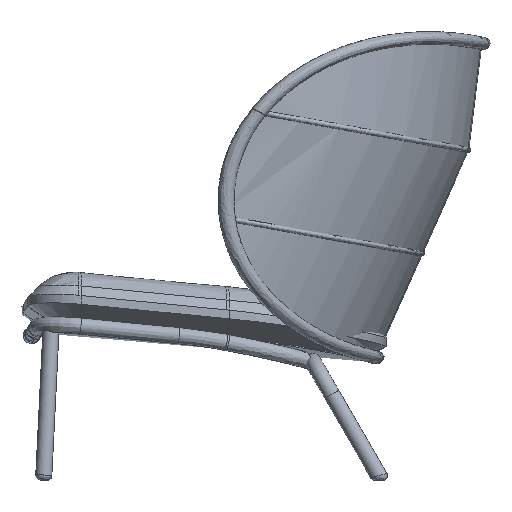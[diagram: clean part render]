
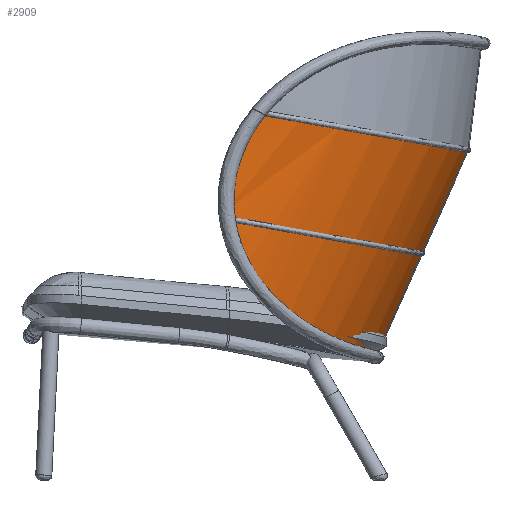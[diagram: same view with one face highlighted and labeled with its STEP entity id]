
A CAD part, left-side view. The second image highlights one B-rep face of the part: STEP entity #2909.
In plain terms, the highlighted free-form (B-spline) face has degree [1, 2] with [2, 3] control points.
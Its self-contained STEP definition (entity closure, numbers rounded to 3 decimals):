
#343=FACE_OUTER_BOUND('',#541,.T.);
#541=EDGE_LOOP('',(#1967,#1968,#1969));
#741=B_SPLINE_CURVE_WITH_KNOTS('',3,(#3964,#3965,#3966,#3967,#3968,#3969,
#3970,#3971,#3972,#3973,#3974,#3975,#3976,#3977,#3978,#3979,#3980,#3981,
#3982,#3983,#3984,#3985,#3986,#3987,#3988,#3989,#3990,#3991,#3992,#3993,
#3994,#3995,#3996,#3997,#3998,#3999,#4000,#4001,#4002,#4003,#4004,#4005,
#4006,#4007,#4008,#4009,#4010,#4011,#4012,#4013,#4014,#4015,#4016,#4017,
#4018,#4019,#4020,#4021,#4022,#4023,#4024,#4025,#4026,#4027,#4028,#4029,
#4030,#4031,#4032,#4033),.UNSPECIFIED.,.F.,.F.,(4,3,3,3,3,3,3,3,3,3,3,3,
3,3,3,3,3,3,3,3,3,3,3,4),(1.,4.531,9.063,
13.594,18.126,22.657,27.189,31.72,
36.252,40.317,44.383,48.448,52.513,
56.326,60.139,63.952,67.765,71.578,
75.391,79.204,83.017,86.83,90.643,
91.565),.UNSPECIFIED.);
#901=LINE('',#3963,#1015);
#1015=VECTOR('',#3364,0.301);
#1129=ELLIPSE('',#3122,500.,499.383);
#1210=VERTEX_POINT('',#3959);
#1211=VERTEX_POINT('',#3960);
#1212=VERTEX_POINT('',#3962);
#1498=EDGE_CURVE('',#1210,#1211,#1129,.T.);
#1499=EDGE_CURVE('',#1212,#1211,#901,.T.);
#1500=EDGE_CURVE('',#1212,#1210,#741,.T.);
#1967=ORIENTED_EDGE('',*,*,#1498,.T.);
#1968=ORIENTED_EDGE('',*,*,#1499,.F.);
#1969=ORIENTED_EDGE('',*,*,#1500,.T.);
#2897=(
BOUNDED_SURFACE()
B_SPLINE_SURFACE(1,2,((#3953,#3954,#3955),(#3956,#3957,#3958)),
 .UNSPECIFIED.,.F.,.F.,.F.)
B_SPLINE_SURFACE_WITH_KNOTS((2,2),(3,3),(0.589,1.455),
(-2.959,-1.671),.UNSPECIFIED.)
GEOMETRIC_REPRESENTATION_ITEM()
RATIONAL_B_SPLINE_SURFACE(((1.,0.8,1.),(1.,0.8,
1.)))
REPRESENTATION_ITEM('')
SURFACE()
);
#2909=ADVANCED_FACE('',(#343),#2897,.T.);
#3122=AXIS2_PLACEMENT_3D('',#3961,#3362,#3363);
#3362=DIRECTION('center_axis',(0.,-0.177,0.984));
#3363=DIRECTION('ref_axis',(1.,0.,0.));
#3364=DIRECTION('',(0.,-0.408,0.913));
#3953=CARTESIAN_POINT('Ctrl Pts',(-481.671,-303.618,381.949));
#3954=CARTESIAN_POINT('Ctrl Pts',(-413.398,-630.378,236.054));
#3955=CARTESIAN_POINT('Ctrl Pts',(-39.95,-663.567,221.236));
#3956=CARTESIAN_POINT('Ctrl Pts',(-481.671,-480.085,777.18));
#3957=CARTESIAN_POINT('Ctrl Pts',(-413.398,-806.844,631.285));
#3958=CARTESIAN_POINT('Ctrl Pts',(-39.95,-840.033,616.467));
#3959=CARTESIAN_POINT('',(-479.695,-450.313,686.479));
#3960=CARTESIAN_POINT('',(-39.95,-840.033,616.467));
#3961=CARTESIAN_POINT('Origin',(9.987,-350.976,704.324));
#3962=CARTESIAN_POINT('',(-39.95,-667.274,229.538));
#3963=CARTESIAN_POINT('',(-39.95,-571.473,14.974));
#3964=CARTESIAN_POINT('Ctrl Pts',(-39.95,-667.274,229.538));
#3965=CARTESIAN_POINT('Ctrl Pts',(-51.748,-666.129,229.792));
#3966=CARTESIAN_POINT('Ctrl Pts',(-63.65,-664.566,230.142));
#3967=CARTESIAN_POINT('Ctrl Pts',(-75.582,-662.572,230.607));
#3968=CARTESIAN_POINT('Ctrl Pts',(-90.894,-660.014,231.202));
#3969=CARTESIAN_POINT('Ctrl Pts',(-106.257,-656.746,231.985));
#3970=CARTESIAN_POINT('Ctrl Pts',(-121.518,-652.782,233.001));
#3971=CARTESIAN_POINT('Ctrl Pts',(-136.78,-648.818,234.018));
#3972=CARTESIAN_POINT('Ctrl Pts',(-151.943,-644.158,235.269));
#3973=CARTESIAN_POINT('Ctrl Pts',(-166.866,-638.855,236.813));
#3974=CARTESIAN_POINT('Ctrl Pts',(-181.789,-633.552,238.357));
#3975=CARTESIAN_POINT('Ctrl Pts',(-196.471,-627.606,240.195));
#3976=CARTESIAN_POINT('Ctrl Pts',(-210.785,-621.107,242.389));
#3977=CARTESIAN_POINT('Ctrl Pts',(-225.098,-614.607,244.584));
#3978=CARTESIAN_POINT('Ctrl Pts',(-239.055,-607.547,247.138));
#3979=CARTESIAN_POINT('Ctrl Pts',(-252.536,-600.045,250.116));
#3980=CARTESIAN_POINT('Ctrl Pts',(-266.018,-592.542,253.093));
#3981=CARTESIAN_POINT('Ctrl Pts',(-279.024,-584.598,256.495));
#3982=CARTESIAN_POINT('Ctrl Pts',(-291.455,-576.355,260.373));
#3983=CARTESIAN_POINT('Ctrl Pts',(-303.885,-568.112,264.251));
#3984=CARTESIAN_POINT('Ctrl Pts',(-315.741,-559.57,268.607));
#3985=CARTESIAN_POINT('Ctrl Pts',(-326.944,-550.894,273.474));
#3986=CARTESIAN_POINT('Ctrl Pts',(-338.147,-542.217,278.341));
#3987=CARTESIAN_POINT('Ctrl Pts',(-348.697,-533.406,283.72));
#3988=CARTESIAN_POINT('Ctrl Pts',(-358.542,-524.637,289.616));
#3989=CARTESIAN_POINT('Ctrl Pts',(-367.375,-516.769,294.905));
#3990=CARTESIAN_POINT('Ctrl Pts',(-376.116,-508.502,300.906));
#3991=CARTESIAN_POINT('Ctrl Pts',(-384.418,-500.171,307.586));
#3992=CARTESIAN_POINT('Ctrl Pts',(-392.72,-491.839,314.267));
#3993=CARTESIAN_POINT('Ctrl Pts',(-400.583,-483.447,321.63));
#3994=CARTESIAN_POINT('Ctrl Pts',(-407.793,-475.339,329.546));
#3995=CARTESIAN_POINT('Ctrl Pts',(-415.003,-467.23,337.462));
#3996=CARTESIAN_POINT('Ctrl Pts',(-421.566,-459.4,345.939));
#3997=CARTESIAN_POINT('Ctrl Pts',(-427.4,-452.144,354.735));
#3998=CARTESIAN_POINT('Ctrl Pts',(-433.233,-444.888,363.532));
#3999=CARTESIAN_POINT('Ctrl Pts',(-438.34,-438.208,372.649));
#4000=CARTESIAN_POINT('Ctrl Pts',(-442.744,-432.291,381.743));
#4001=CARTESIAN_POINT('Ctrl Pts',(-446.875,-426.742,390.273));
#4002=CARTESIAN_POINT('Ctrl Pts',(-450.612,-421.561,399.232));
#4003=CARTESIAN_POINT('Ctrl Pts',(-453.958,-416.876,408.547));
#4004=CARTESIAN_POINT('Ctrl Pts',(-457.305,-412.191,417.862));
#4005=CARTESIAN_POINT('Ctrl Pts',(-460.262,-408.002,427.532));
#4006=CARTESIAN_POINT('Ctrl Pts',(-462.861,-404.409,437.467));
#4007=CARTESIAN_POINT('Ctrl Pts',(-465.46,-400.816,447.403));
#4008=CARTESIAN_POINT('Ctrl Pts',(-467.702,-397.818,457.605));
#4009=CARTESIAN_POINT('Ctrl Pts',(-469.634,-395.483,467.975));
#4010=CARTESIAN_POINT('Ctrl Pts',(-471.566,-393.148,478.345));
#4011=CARTESIAN_POINT('Ctrl Pts',(-473.19,-391.476,488.882));
#4012=CARTESIAN_POINT('Ctrl Pts',(-474.558,-390.501,499.482));
#4013=CARTESIAN_POINT('Ctrl Pts',(-475.926,-389.527,510.082));
#4014=CARTESIAN_POINT('Ctrl Pts',(-477.041,-389.248,520.757));
#4015=CARTESIAN_POINT('Ctrl Pts',(-477.953,-389.673,531.403));
#4016=CARTESIAN_POINT('Ctrl Pts',(-478.865,-390.098,542.049));
#4017=CARTESIAN_POINT('Ctrl Pts',(-479.574,-391.226,552.666));
#4018=CARTESIAN_POINT('Ctrl Pts',(-480.12,-393.034,563.152));
#4019=CARTESIAN_POINT('Ctrl Pts',(-480.667,-394.841,573.638));
#4020=CARTESIAN_POINT('Ctrl Pts',(-481.051,-397.329,583.993));
#4021=CARTESIAN_POINT('Ctrl Pts',(-481.302,-400.441,594.119));
#4022=CARTESIAN_POINT('Ctrl Pts',(-481.553,-403.553,604.245));
#4023=CARTESIAN_POINT('Ctrl Pts',(-481.671,-407.29,614.142));
#4024=CARTESIAN_POINT('Ctrl Pts',(-481.671,-411.565,623.718));
#4025=CARTESIAN_POINT('Ctrl Pts',(-481.671,-415.84,633.293));
#4026=CARTESIAN_POINT('Ctrl Pts',(-481.553,-420.787,642.844));
#4027=CARTESIAN_POINT('Ctrl Pts',(-481.302,-426.398,652.256));
#4028=CARTESIAN_POINT('Ctrl Pts',(-481.051,-432.01,661.668));
#4029=CARTESIAN_POINT('Ctrl Pts',(-480.667,-438.286,670.941));
#4030=CARTESIAN_POINT('Ctrl Pts',(-480.12,-445.192,679.97));
#4031=CARTESIAN_POINT('Ctrl Pts',(-479.988,-446.862,682.154));
#4032=CARTESIAN_POINT('Ctrl Pts',(-479.846,-448.569,684.324));
#4033=CARTESIAN_POINT('Ctrl Pts',(-479.695,-450.313,686.479));
